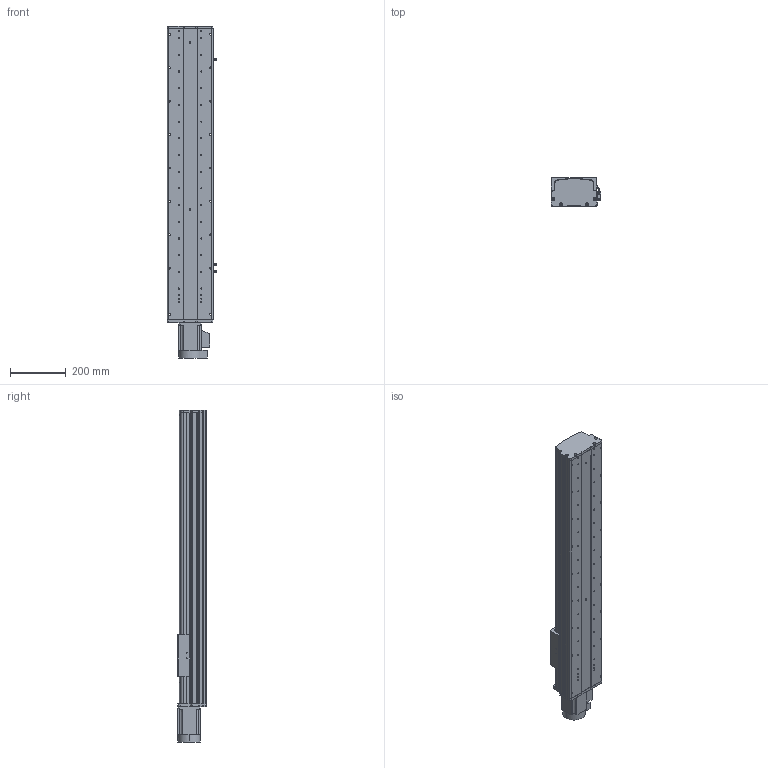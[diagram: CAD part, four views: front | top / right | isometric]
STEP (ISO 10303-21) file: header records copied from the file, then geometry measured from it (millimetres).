
FILE_DESCRIPTION (( 'STEP AP214' ), '1' );
FILE_NAME ('KSD165S-S750-MN-CM .STEP', '2017-08-07T08:15:13', ( '微软用户' ), ( '微软中国' ), 'SwSTEP 2.0', 'SolidWorks 2014', '' );
FILE_SCHEMA (( 'AUTOMOTIVE_DESIGN' ));
Length unit declared in the file: millimetre
Products named in the file (12): KSD165模组-防尘盖1-750行程-直连不带电机座; KSD165模组底板-750行程-直连不带电机座; 拸秶雄ん750W侜督萇儂; KSD165模组-直连不带电机座电机连接板; KSD165耀郪-佪裝-滅袉菜-3 -; C44ㄜ1912WP; 覜茼え68遵圉猾敕; U倰嫖萇假蚾璃; U倰嫖萇EEㄜSX672; KSD165耀郪-綴傷啣1; KSD165模组-丝杆滑动座-最新版; KSD165S-S750-MN-CM 
Assembly tree (15 placements, depth 2):
  KSD165S-S750-MN-CM 
    KSD165模组-丝杆滑动座-最新版
    KSD165耀郪-綴傷啣1
    U倰嫖萇EEㄜSX672  x3
    U倰嫖萇假蚾璃  x3
    覜茼え68遵圉猾敕
    C44ㄜ1912WP
    KSD165耀郪-佪裝-滅袉菜-3 -
    KSD165模组-直连不带电机座电机连接板
    拸秶雄ん750W侜督萇儂
    KSD165模组底板-750行程-直连不带电机座
    KSD165模组-防尘盖1-750行程-直连不带电机座
Bounding box: 178.7 x 104 x 1193 mm (x, y, z)
Volume: 6739387.7 mm3; surface area: 1484269.1 mm2
Topology: 16 solids, 16 shells, 1223 faces, 3424 edges, 2221 vertices
Faces by surface type: cylinder 651, plane 495, cone 77
Entity records: 38727 total; most frequent: CARTESIAN_POINT 8643, DIRECTION 5753, ORIENTED_EDGE 5528, EDGE_CURVE 2764, AXIS2_PLACEMENT_3D 2163, VERTEX_POINT 1813, LINE 1427, VECTOR 1427
